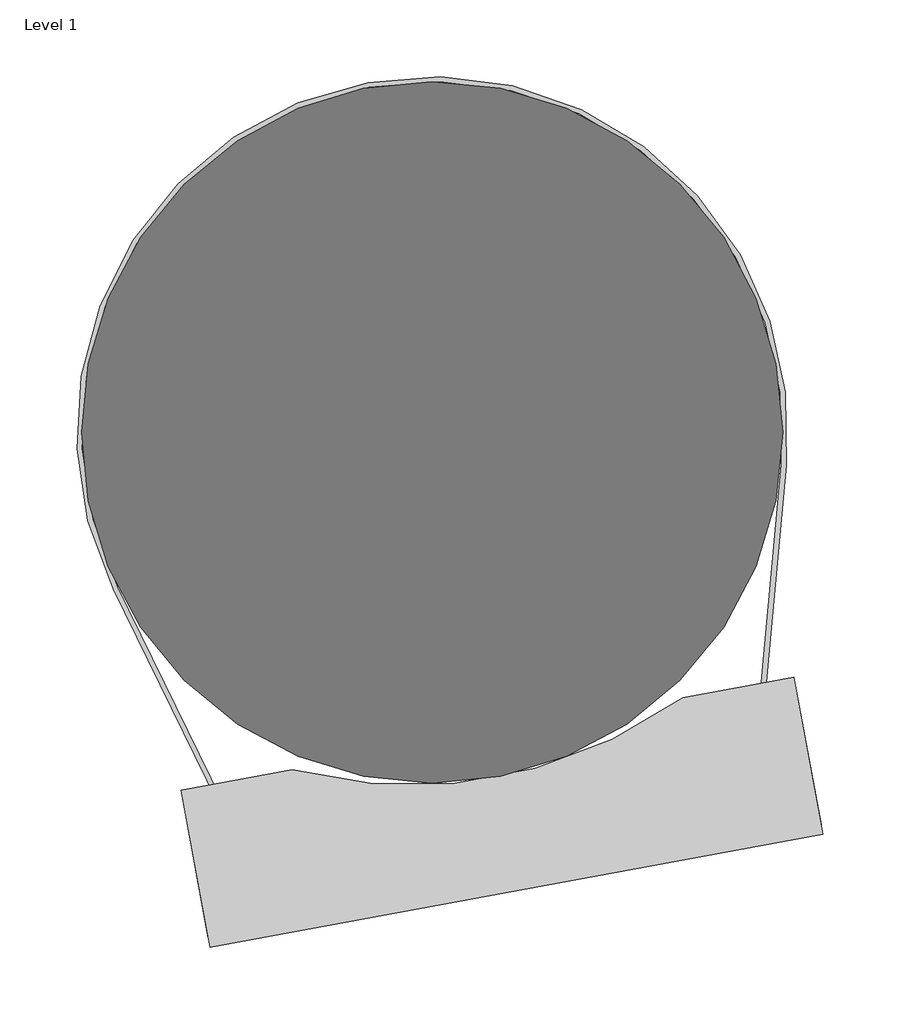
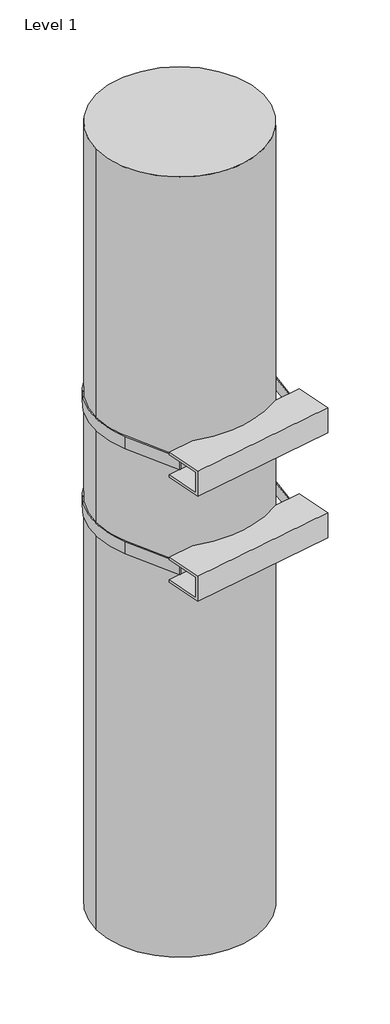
# One storey: 2 proxies.
"""IFC4 building model written with IfcOpenShell, lengths in millimetres."""

from ifc_helpers import new_model, si_unit, point, frame_2d, origin, origin_with_axes, place, context, project, spatial, circle_curve, trimmed, segment, composite_curve, outline, extrude, transform, mapped, element, save
from components import structural_column_adapter_5b7bb809

model = new_model("IFC4")

# Units and contexts
model_context = context("Model", 3, world=origin())
ifc_project = project(units=[si_unit("LENGTHUNIT", "METRE", prefix="MILLI")], contexts=[model_context])

# Site, building, storey
site = spatial("IfcSite", under=ifc_project)
building = spatial("IfcBuilding", under=site)
storey = spatial("IfcBuildingStorey", under=building, Name="Level 1", Elevation=0.0)

# Proxies
placement = place(None, origin())
element("IfcBuildingElementProxy", 1, Name="Mass 1 : Mass 1", ObjectType="Mass 1 : Mass 1", at=placement, inside=storey, context=model_context, shape_type="SweptSolid", body=[
    extrude(outline(composite_curve([segment(trimmed(circle_curve(frame_2d((1982.2246291, 1762.4787998)), 228.6), [point((1753.6246291, 1762.4787998))], [point((2210.8246291, 1762.4787998))], False, "CARTESIAN"), True, "CONTINUOUS"), segment(trimmed(circle_curve(frame_2d((1982.2246291, 1762.4787998)), 228.6), [point((2210.8246291, 1762.4787998))], [point((1753.6246291, 1762.4787998))], False, "CARTESIAN"), True, "CONTINUOUS")], self_intersect=False)), origin_with_axes(), (0.0, 0.0, 1.0), 2264.2187315),
])
structural_column_adapter_shape = structural_column_adapter_5b7bb809(model_context)
element("IfcBuildingElementProxy", 2, Name="Adapter-Column_Strap-Chief-Flat_Panel_Mount : Structural Column Adapter", ObjectType="Adapter-Column_Strap-Chief-Flat_Panel_Mount : Structural Column Adapter", at=placement, inside=storey, context=model_context, shape_type="MappedRepresentation", body=[
    mapped(structural_column_adapter_shape, transform((2023.5658325, 1537.6480525, 1315.6635641), x_axis=(0.9835115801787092, 0.1808451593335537, 0.0), y_axis=(0.0, 0.0, 1.0), z_axis=(0.18084515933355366, -0.9835115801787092, 0.0))),
])

save(model, "model.ifc")
